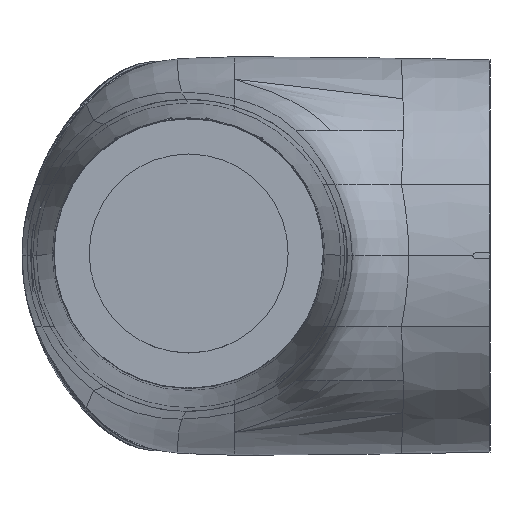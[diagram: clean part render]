
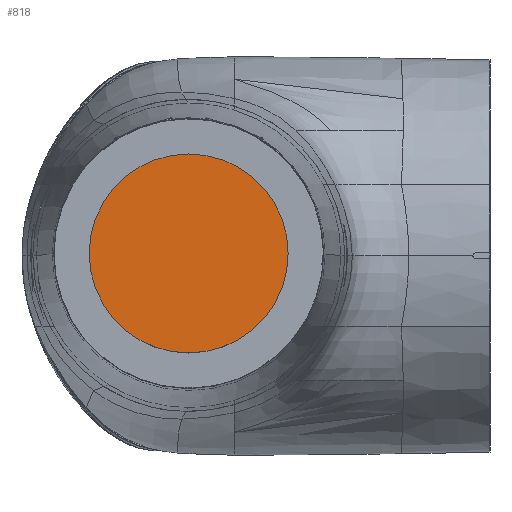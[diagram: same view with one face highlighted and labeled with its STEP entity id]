
A CAD part, top view. The second image highlights one B-rep face of the part: STEP entity #818.
In plain terms, the highlighted planar face has unit normal (0, 0, 1).
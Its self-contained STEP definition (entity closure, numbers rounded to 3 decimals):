
#627=PLANE('',#14614);
#818=ADVANCED_FACE('1300_MODEL-C004',(#1136),#627,.T.);
#1136=FACE_OUTER_BOUND('',#4828,.T.);
#2345=ORIENTED_EDGE('',*,*,#3560,.T.);
#2346=ORIENTED_EDGE('',*,*,#3559,.T.);
#3559=EDGE_CURVE('358',#4451,#4452,#4064,.T.);
#3560=EDGE_CURVE('360',#4452,#4451,#4065,.T.);
#4064=CIRCLE('',#14611,35.);
#4065=CIRCLE('',#14613,35.);
#4451=VERTEX_POINT('233',#9914);
#4452=VERTEX_POINT('232',#9915);
#4828=EDGE_LOOP('',(#2345,#2346));
#9914=CARTESIAN_POINT('',(-15.,930.,512.8));
#9915=CARTESIAN_POINT('',(-85.,930.,512.8));
#9916=CARTESIAN_POINT('',(-50.,930.,512.8));
#9918=CARTESIAN_POINT('',(-85.5,894.5,512.8));
#14611=AXIS2_PLACEMENT_3D('',#9916,#14881,#14882);
#14613=AXIS2_PLACEMENT_3D('',#9916,#14881,#14883);
#14614=AXIS2_PLACEMENT_3D('',#9918,#14881,#14882);
#14881=DIRECTION('',(0.,0.,1.));
#14882=DIRECTION('',(1.,0.,0.));
#14883=DIRECTION('',(-1.,0.,0.));
